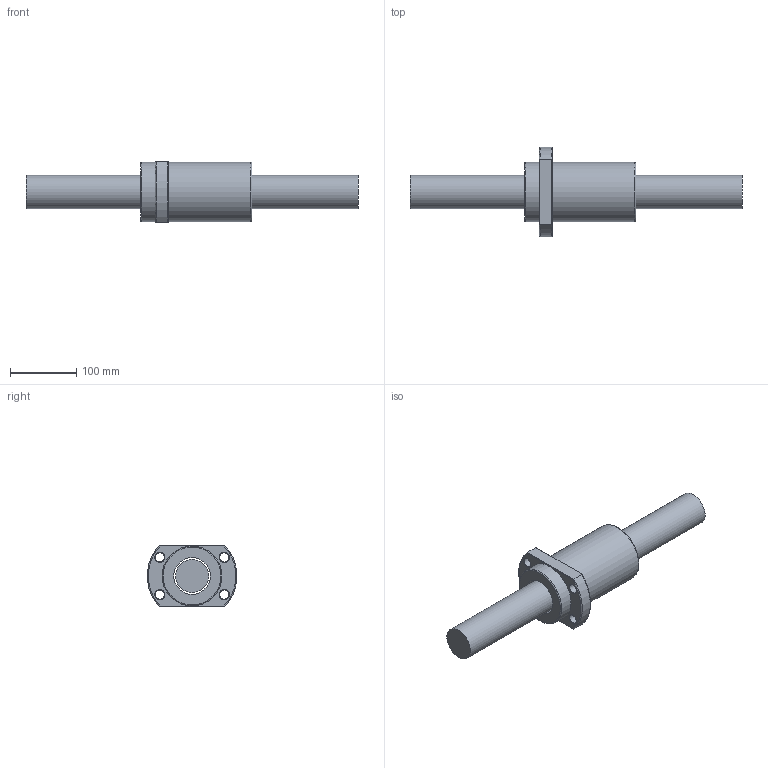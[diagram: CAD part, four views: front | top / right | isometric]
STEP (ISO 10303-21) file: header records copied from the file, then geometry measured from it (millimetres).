
FILE_DESCRIPTION (( 'STEP AP203' ), '1' );
FILE_NAME ('SFY05050-5.6.step', '2024-05-21T08:57:43', ( '' ), ( '' ), 'SwSTEP 2.0', 'SolidWorks 2022', '' );
FILE_SCHEMA (( 'CONFIG_CONTROL_DESIGN' ));
Length unit declared in the file: millimetre
Products named in the file (1): SFY05050-5.6
Bounding box: 500 x 134.77 x 92 mm (x, y, z)
Volume: 1732622.8 mm3; surface area: 180843.1 mm2
Topology: 2 solids, 2 shells, 51 faces, 123 edges, 78 vertices
Faces by surface type: cylinder 18, plane 13, cone 9, torus 6, bspline 5
Full cylindrical faces by diameter (mm): 4 x1, 5 x6, 14 x4, 50 x1, 55.1 x1, 90 x2
Entity records: 3009 total; most frequent: CARTESIAN_POINT 2048, DIRECTION 170, ORIENTED_EDGE 156, EDGE_LOOP 80, EDGE_CURVE 78, AXIS2_PLACEMENT_3D 77, VERTEX_POINT 62, FACE_OUTER_BOUND 57
